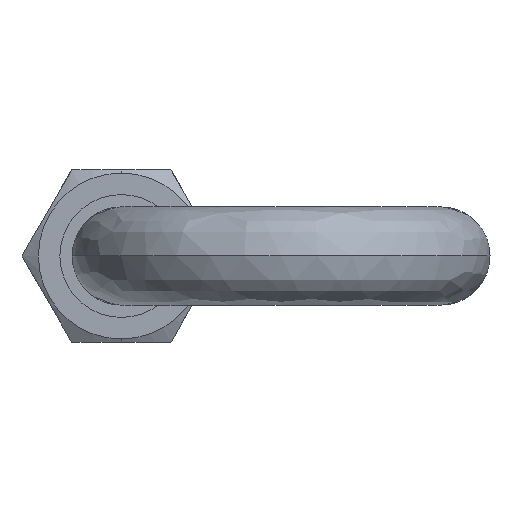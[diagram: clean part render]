
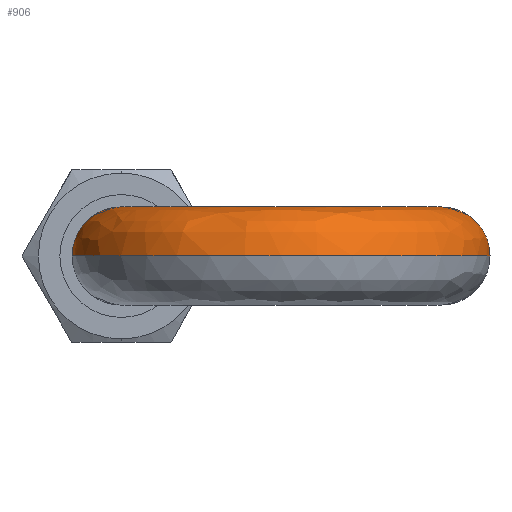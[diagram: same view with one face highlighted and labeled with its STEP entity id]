
A CAD part, left-side view. The second image highlights one B-rep face of the part: STEP entity #906.
In plain terms, the highlighted free-form (B-spline) face has degree [3, 3] with [7, 4] control points.
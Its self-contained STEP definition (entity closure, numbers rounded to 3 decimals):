
#29 = EDGE_CURVE ( 'NONE', #266, #1478, #756, .T. ) ;
#35 = ORIENTED_EDGE ( 'NONE', *, *, #1431, .T. ) ;
#71 = EDGE_CURVE ( 'NONE', #1203, #1420, #282, .T. ) ;
#99 = ORIENTED_EDGE ( 'NONE', *, *, #71, .T. ) ;
#136 = ORIENTED_EDGE ( 'NONE', *, *, #355, .F. ) ;
#178 = ORIENTED_EDGE ( 'NONE', *, *, #1168, .F. ) ;
#266 = VERTEX_POINT ( 'NONE', #566 ) ;
#282 = CIRCLE ( 'NONE', #284, 4. ) ;
#284 = AXIS2_PLACEMENT_3D ( 'NONE', #285, #286, #287 ) ;
#285 = CARTESIAN_POINT ( 'NONE',  ( -20.25, 13., 0. ) ) ;
#286 = DIRECTION ( 'NONE',  ( -1., 0., 0. ) ) ;
#287 = DIRECTION ( 'NONE',  ( 0., -1., 0. ) ) ;
#303 = CIRCLE ( 'NONE', #304, 4. ) ;
#304 = AXIS2_PLACEMENT_3D ( 'NONE', #305, #306, #307 ) ;
#305 = CARTESIAN_POINT ( 'NONE',  ( -20.25, -13., 0. ) ) ;
#306 = DIRECTION ( 'NONE',  ( 1., 0., 0. ) ) ;
#307 = DIRECTION ( 'NONE',  ( 0., 0., -1. ) ) ;
#355 = EDGE_CURVE ( 'NONE', #1203, #959, #602, .T. ) ;
#373 = CIRCLE ( 'NONE', #374, 4. ) ;
#374 = AXIS2_PLACEMENT_3D ( 'NONE', #375, #376, #377 ) ;
#375 = CARTESIAN_POINT ( 'NONE',  ( -20.25, -13., 0. ) ) ;
#376 = DIRECTION ( 'NONE',  ( 1., 0., 0. ) ) ;
#377 = DIRECTION ( 'NONE',  ( 0., 0., -1. ) ) ;
#421 = CARTESIAN_POINT ( 'NONE',  ( -20.25, 9., 0. ) ) ;
#566 = CARTESIAN_POINT ( 'NONE',  ( -20.25, -17., 0. ) ) ;
#602 = CIRCLE ( 'NONE', #603, 9. ) ;
#603 = AXIS2_PLACEMENT_3D ( 'NONE', #604, #605, #606 ) ;
#604 = CARTESIAN_POINT ( 'NONE',  ( -20.25, 0., 0. ) ) ;
#605 = DIRECTION ( 'NONE',  ( 0., 0., 1. ) ) ;
#606 = DIRECTION ( 'NONE',  ( 0., -1., 0. ) ) ;
#642 = CARTESIAN_POINT ( 'NONE',  ( -20.25, 17., 0. ) ) ;
#678 = EDGE_LOOP ( 'NONE', ( #178, #136, #99, #35, #1470, #1440 ) ) ;
#698 = CARTESIAN_POINT ( 'NONE',  ( -20.25, 13., 4. ) ) ;
#751 = VERTEX_POINT ( 'NONE', #871 ) ;
#756 = CIRCLE ( 'NONE', #757, 17. ) ;
#757 = AXIS2_PLACEMENT_3D ( 'NONE', #758, #759, #760 ) ;
#758 = CARTESIAN_POINT ( 'NONE',  ( -20.25, 0., 0. ) ) ;
#759 = DIRECTION ( 'NONE',  ( 0., 0., -1. ) ) ;
#760 = DIRECTION ( 'NONE',  ( 0., -1., 0. ) ) ;
#809 = CIRCLE ( 'NONE', #810, 4. ) ;
#810 = AXIS2_PLACEMENT_3D ( 'NONE', #811, #812, #813 ) ;
#811 = CARTESIAN_POINT ( 'NONE',  ( -20.25, 13., 0. ) ) ;
#812 = DIRECTION ( 'NONE',  ( -1., 0., 0. ) ) ;
#813 = DIRECTION ( 'NONE',  ( 0., -1., 0. ) ) ;
#871 = CARTESIAN_POINT ( 'NONE',  ( -20.25, -13., 4. ) ) ;
#906 = ADVANCED_FACE ( 'NONE', ( #964 ), #965, .F. ) ;
#959 = VERTEX_POINT ( 'NONE', #1029 ) ;
#964 = FACE_OUTER_BOUND ( 'NONE', #678, .T. ) ;
#965 =( BOUNDED_SURFACE ( )  B_SPLINE_SURFACE ( 3, 3, ( 
 ( #966, #967, #968, #969 ),
 ( #970, #971, #972, #973 ),
 ( #974, #975, #977, #978 ),
 ( #979, #980, #981, #982 ),
 ( #983, #984, #985, #986 ),
 ( #987, #988, #989, #990 ),
 ( #991, #992, #995, #996 ) ),
 .UNSPECIFIED., .F., .F., .T. ) 
 B_SPLINE_SURFACE_WITH_KNOTS ( ( 4, 3, 4 ),
 ( 4, 4 ),
 ( 0.021, 0.5, 0.979 ),
 ( 0., 1. ),
 .UNSPECIFIED. ) 
 GEOMETRIC_REPRESENTATION_ITEM ( )  RATIONAL_B_SPLINE_SURFACE ( (
 ( 0.974, 0.325, 0.325, 0.974),
 ( 0.79, 0.263, 0.263, 0.79),
 ( 0.799, 0.266, 0.266, 0.799),
 ( 1., 0.333, 0.333, 1.),
 ( 0.799, 0.266, 0.266, 0.799),
 ( 0.79, 0.263, 0.263, 0.79),
 ( 0.974, 0.325, 0.325, 0.974) ) ) 
 REPRESENTATION_ITEM ( '' )  SURFACE ( )  );
#966 = CARTESIAN_POINT ( 'NONE',  ( -20.25, 17., 0. ) ) ;
#967 = CARTESIAN_POINT ( 'NONE',  ( -54.25, 17., 0. ) ) ;
#968 = CARTESIAN_POINT ( 'NONE',  ( -54.25, -17., 0. ) ) ;
#969 = CARTESIAN_POINT ( 'NONE',  ( -20.25, -17., 0. ) ) ;
#970 = CARTESIAN_POINT ( 'NONE',  ( -20.25, 17., 2.356 ) ) ;
#971 = CARTESIAN_POINT ( 'NONE',  ( -54.25, 17., 2.356 ) ) ;
#972 = CARTESIAN_POINT ( 'NONE',  ( -54.25, -17., 2.356 ) ) ;
#973 = CARTESIAN_POINT ( 'NONE',  ( -20.25, -17., 2.356 ) ) ;
#974 = CARTESIAN_POINT ( 'NONE',  ( -20.25, 15.331, 4. ) ) ;
#975 = CARTESIAN_POINT ( 'NONE',  ( -50.911, 15.331, 4. ) ) ;
#977 = CARTESIAN_POINT ( 'NONE',  ( -50.911, -15.331, 4. ) ) ;
#978 = CARTESIAN_POINT ( 'NONE',  ( -20.25, -15.331, 4. ) ) ;
#979 = CARTESIAN_POINT ( 'NONE',  ( -20.25, 13., 4. ) ) ;
#980 = CARTESIAN_POINT ( 'NONE',  ( -46.25, 13., 4. ) ) ;
#981 = CARTESIAN_POINT ( 'NONE',  ( -46.25, -13., 4. ) ) ;
#982 = CARTESIAN_POINT ( 'NONE',  ( -20.25, -13., 4. ) ) ;
#983 = CARTESIAN_POINT ( 'NONE',  ( -20.25, 10.669, 4. ) ) ;
#984 = CARTESIAN_POINT ( 'NONE',  ( -41.589, 10.669, 4. ) ) ;
#985 = CARTESIAN_POINT ( 'NONE',  ( -41.589, -10.669, 4. ) ) ;
#986 = CARTESIAN_POINT ( 'NONE',  ( -20.25, -10.669, 4. ) ) ;
#987 = CARTESIAN_POINT ( 'NONE',  ( -20.25, 9., 2.356 ) ) ;
#988 = CARTESIAN_POINT ( 'NONE',  ( -38.25, 9., 2.356 ) ) ;
#989 = CARTESIAN_POINT ( 'NONE',  ( -38.25, -9., 2.356 ) ) ;
#990 = CARTESIAN_POINT ( 'NONE',  ( -20.25, -9., 2.356 ) ) ;
#991 = CARTESIAN_POINT ( 'NONE',  ( -20.25, 9., 0. ) ) ;
#992 = CARTESIAN_POINT ( 'NONE',  ( -38.25, 9., 0. ) ) ;
#995 = CARTESIAN_POINT ( 'NONE',  ( -38.25, -9., 0. ) ) ;
#996 = CARTESIAN_POINT ( 'NONE',  ( -20.25, -9., 0. ) ) ;
#1029 = CARTESIAN_POINT ( 'NONE',  ( -20.25, -9., 0. ) ) ;
#1168 = EDGE_CURVE ( 'NONE', #959, #751, #373, .T. ) ;
#1203 = VERTEX_POINT ( 'NONE', #421 ) ;
#1420 = VERTEX_POINT ( 'NONE', #698 ) ;
#1431 = EDGE_CURVE ( 'NONE', #1420, #1478, #809, .T. ) ;
#1440 = ORIENTED_EDGE ( 'NONE', *, *, #1464, .F. ) ;
#1464 = EDGE_CURVE ( 'NONE', #751, #266, #303, .T. ) ;
#1470 = ORIENTED_EDGE ( 'NONE', *, *, #29, .F. ) ;
#1478 = VERTEX_POINT ( 'NONE', #642 ) ;
